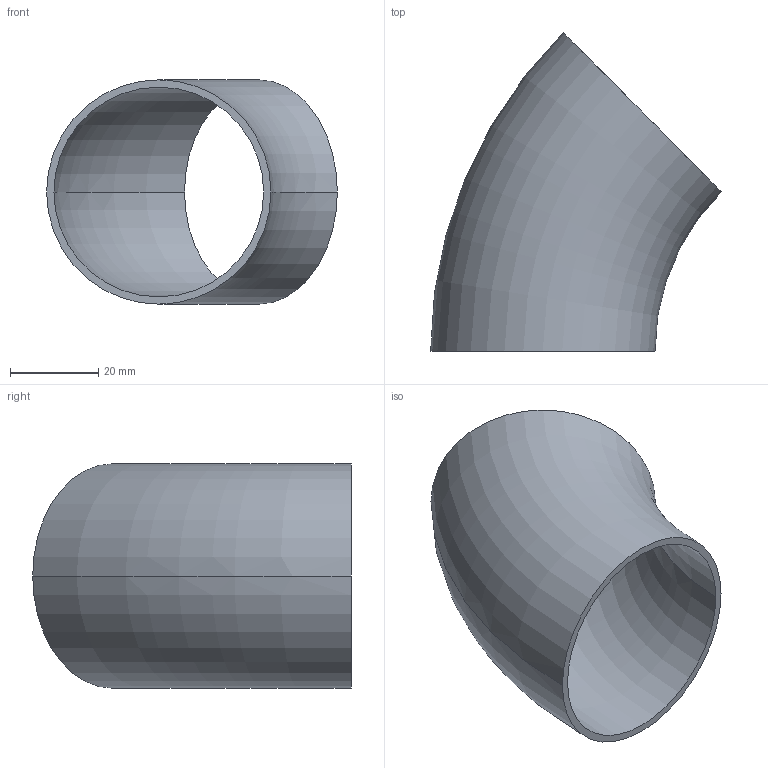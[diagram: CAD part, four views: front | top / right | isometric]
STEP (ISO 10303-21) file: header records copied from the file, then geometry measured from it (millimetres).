
FILE_DESCRIPTION (( 'STEP AP203' ), '1' );
FILE_NAME ('E2WK2.0.STEP', '2018-04-30T18:10:35', ( 'vneprd' ), ( 'Microsoft' ), 'SwSTEP 2.0', 'SolidWorks 2014', '' );
FILE_SCHEMA (( 'CONFIG_CONTROL_DESIGN' ));
Length unit declared in the file: inch
Products named in the file (1): E2WK2.0
Bounding box: 65.83 x 72.14 x 50.8 mm (x, y, z)
Volume: 15337.8 mm3; surface area: 19089.9 mm2
Topology: 1 solids, 1 shells, 6 faces, 12 edges, 8 vertices
Faces by surface type: torus 4, plane 2
Entity records: 251 total; most frequent: DIRECTION 38, CARTESIAN_POINT 27, ORIENTED_EDGE 24, AXIS2_PLACEMENT_3D 19, CIRCLE 12, EDGE_CURVE 12, EDGE_LOOP 8, VERTEX_POINT 8
